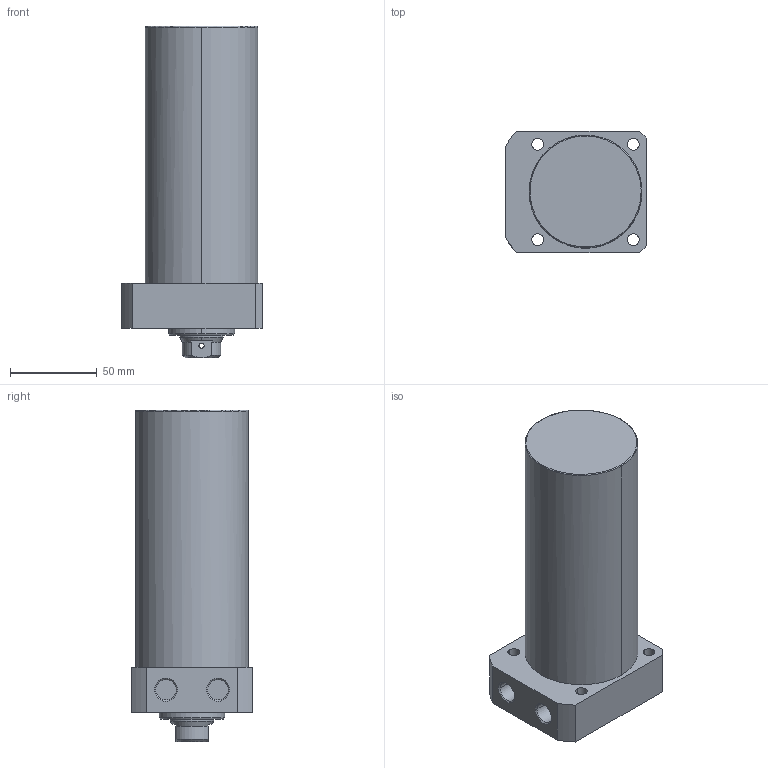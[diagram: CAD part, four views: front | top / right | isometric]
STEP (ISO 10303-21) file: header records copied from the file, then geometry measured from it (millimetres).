
FILE_DESCRIPTION((' '),'2;1');
FILE_NAME( 'TLLR-065CB-115.STEP.stp', '2025-10-24T16:34:57', (' '), ('--- Datakit www.datakit.com---'), ' Datakit CrossCadWare V2024.1 Dec 21 2023', 'Mastercam 2025', ' ');
FILE_SCHEMA(('AUTOMOTIVE_DESIGN { 1 0 10303 214 1 1 1 1 }'));
Length unit declared in the file: millimetre
Products named in the file (1): TLLR-065CB-115
Bounding box: 81 x 70 x 191 mm (x, y, z)
Volume: 634996 mm3; surface area: 54692.5 mm2
Topology: 1 solids, 1 shells, 67 faces, 197 edges, 136 vertices
Faces by surface type: cylinder 32, plane 19, cone 14, torus 2
Entity records: 3278 total; most frequent: CARTESIAN_POINT 1359, DIRECTION 426, ORIENTED_EDGE 390, EDGE_CURVE 195, AXIS2_PLACEMENT_3D 179, VERTEX_POINT 136, CIRCLE 111, EDGE_LOOP 85
